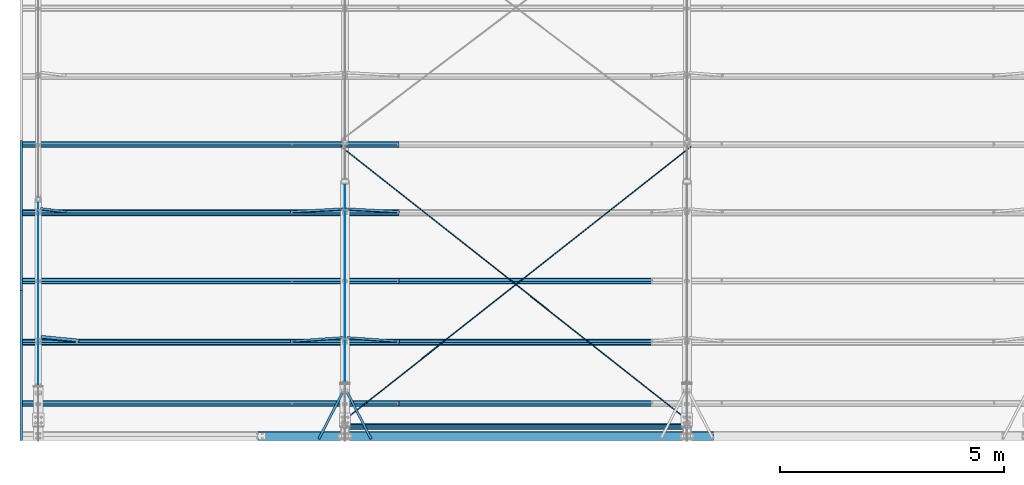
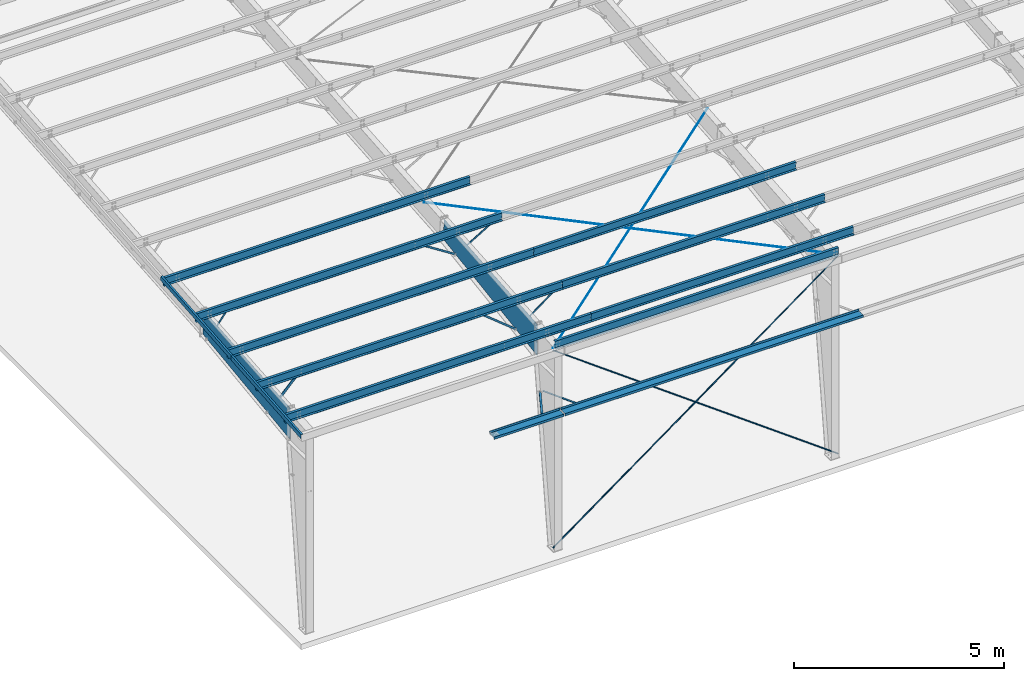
# One storey, part 6 of 185: 19 beams, 8 members, 27 elements without a shape of their own.
"""IFC2X3 building model written with IfcOpenShell, lengths in millimetres."""

from ifc_helpers import new_model, si_unit, frame, origin_with_axes, origin_2d_with_axis, place, context, subcontext, project, spatial, polyline, rectangle, circle, l_section, outline, extrude, clip, halfspace, material, type_object, element, aggregate, save


model = new_model("IFC2X3")

# Units and contexts
model_context = context("Model", 3, precision=1e-05, world=origin_with_axes())
body_context = subcontext(model_context, "Body", "Model", "MODEL_VIEW")
ifc_project = project(units=[si_unit("LENGTHUNIT", "METRE", prefix="MILLI"), si_unit("AREAUNIT", "SQUARE_METRE"), si_unit("VOLUMEUNIT", "CUBIC_METRE"), si_unit("MASSUNIT", "GRAM", prefix="KILO"), si_unit("TIMEUNIT", "SECOND"), si_unit("PLANEANGLEUNIT", "RADIAN"), si_unit("SOLIDANGLEUNIT", "STERADIAN"), si_unit("THERMODYNAMICTEMPERATUREUNIT", "DEGREE_CELSIUS"), si_unit("LUMINOUSINTENSITYUNIT", "LUMEN")], contexts=[model_context])

# Site, building, storey
site_placement = place(None, origin_with_axes())
site = spatial("IfcSite", under=ifc_project, at=site_placement, Name="Undefined", CompositionType="ELEMENT")
building_placement = place(site_placement, origin_with_axes())
building = spatial("IfcBuilding", under=site, at=building_placement, Name="Undefined", CompositionType="ELEMENT")
storey_placement = place(building_placement, origin_with_axes())
storey = spatial("IfcBuildingStorey", under=building, at=storey_placement, Name="Undefined", CompositionType="ELEMENT", Elevation=0.0)

# Assembly, beam
assembly_1_placement = place(storey_placement, origin_with_axes())
assembly_1 = element("IfcElementAssembly", 1, at=assembly_1_placement, inside=storey, Name="Steel Assembly", AssemblyPlace="NOTDEFINED", PredefinedType="RIGID_FRAME")
ifc_material = material(Name="STEEL/55")
beam_type_1 = type_object("IfcBeamType", Name="8Z15", PredefinedType="NOTDEFINED")
beam_1_placement = place(assembly_1_placement, frame((7239.0, 823.080489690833, 6062.63787351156), z_axis=(0.0, 0.0830454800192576, -0.996545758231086), x_axis=(1.0, 0.0, 0.0)))
beam_1 = element("IfcBeam", 2, at=beam_1_placement, type_object=beam_type_1, material=ifc_material, Name="Purlin", ObjectType="8Z15", context=body_context, shape_type="Clipping", body=[
    clip(clip(extrude(outline(polyline([(-75.75, 87.0100021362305), (-63.5, 101.599998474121), (1.5900000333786, 101.599998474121), (1.5900000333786, -98.4199981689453), (62.0200004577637, -98.4199981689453), (73.3099975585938, -84.9700012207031), (75.7399978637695, -87.0100021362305), (63.5, -101.599998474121), (-1.5900000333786, -101.599998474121), (-1.5900000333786, 98.4199981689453), (-62.0200004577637, 98.4199981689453), (-73.3099975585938, 84.9700012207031), (-75.75, 87.0100021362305)])), frame((8420.1, 0.0, 0.0), z_axis=(-1.0, 0.0, 0.0), x_axis=(0.0, -1.0, 0.0)), (0.0, 0.0, 1.0), 9626.6), halfspace(frame((8420.1, 2.91402102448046e-09, -101.600000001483), z_axis=(-1.0, 0.0, 0.0), x_axis=(0.0, 0.0, 1.0)), True)), halfspace(frame((-1206.5, 2.91402102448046e-09, -101.600000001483), z_axis=(-1.0, 0.0, 0.0), x_axis=(0.0, 0.0, 1.0)), False)),
])
aggregate(assembly_1, [beam_1])

assembly_2_placement = place(storey_placement, origin_with_axes())
assembly_2 = element("IfcElementAssembly", 3, at=assembly_2_placement, inside=storey, Name="Steel Assembly", AssemblyPlace="NOTDEFINED", PredefinedType="RIGID_FRAME")
beam_2_placement = place(assembly_2_placement, frame((7239.0, 2189.94265168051, 6176.54305390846), z_axis=(0.0, 0.0830454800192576, -0.996545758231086), x_axis=(1.0, 0.0, 0.0)))
beam_2 = element("IfcBeam", 4, at=beam_2_placement, type_object=beam_type_1, material=ifc_material, Name="Purlin", ObjectType="8Z15", context=body_context, shape_type="Clipping", body=[
    clip(clip(extrude(outline(polyline([(-75.75, 87.0100021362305), (-63.5, 101.599998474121), (1.5900000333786, 101.599998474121), (1.5900000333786, -98.4199981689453), (62.0200004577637, -98.4199981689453), (73.3099975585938, -84.9700012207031), (75.7399978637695, -87.0100021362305), (63.5, -101.599998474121), (-1.5900000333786, -101.599998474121), (-1.5900000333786, 98.4199981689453), (-62.0200004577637, 98.4199981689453), (-73.3099975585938, 84.9700012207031), (-75.75, 87.0100021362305)])), frame((8420.1, 0.0, 0.0), z_axis=(-1.0, 0.0, 0.0), x_axis=(0.0, -1.0, 0.0)), (0.0, 0.0, 1.0), 9626.6), halfspace(frame((8420.1, 2.91402102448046e-09, -101.600000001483), z_axis=(-1.0, 0.0, 0.0), x_axis=(0.0, 0.0, 1.0)), True)), halfspace(frame((-1206.5, 2.91402102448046e-09, -101.600000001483), z_axis=(-1.0, 0.0, 0.0), x_axis=(0.0, 0.0, 1.0)), False)),
])
aggregate(assembly_2, [beam_2])

assembly_3_placement = place(storey_placement, origin_with_axes())
assembly_3 = element("IfcElementAssembly", 5, at=assembly_3_placement, inside=storey, Name="Steel Assembly", AssemblyPlace="NOTDEFINED", PredefinedType="RIGID_FRAME")
beam_3_placement = place(assembly_3_placement, frame((7239.0, 3556.8048136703, 6290.44823430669), z_axis=(0.0, 0.0830454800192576, -0.996545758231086), x_axis=(1.0, 0.0, 0.0)))
beam_3 = element("IfcBeam", 6, at=beam_3_placement, type_object=beam_type_1, material=ifc_material, Name="Purlin", ObjectType="8Z15", context=body_context, shape_type="Clipping", body=[
    clip(clip(extrude(outline(polyline([(-75.75, 87.0100021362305), (-63.5, 101.599998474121), (1.5900000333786, 101.599998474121), (1.5900000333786, -98.4199981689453), (62.0200004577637, -98.4199981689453), (73.3099975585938, -84.9700012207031), (75.7399978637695, -87.0100021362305), (63.5, -101.599998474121), (-1.5900000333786, -101.599998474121), (-1.5900000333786, 98.4199981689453), (-62.0200004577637, 98.4199981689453), (-73.3099975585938, 84.9700012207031), (-75.75, 87.0100021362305)])), frame((8420.1, 0.0, 0.0), z_axis=(-1.0, 0.0, 0.0), x_axis=(0.0, -1.0, 0.0)), (0.0, 0.0, 1.0), 9626.6), halfspace(frame((8420.1, 2.91402102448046e-09, -101.600000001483), z_axis=(-1.0, 0.0, 0.0), x_axis=(0.0, 0.0, 1.0)), True)), halfspace(frame((-1206.5, 2.91402102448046e-09, -101.600000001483), z_axis=(-1.0, 0.0, 0.0), x_axis=(0.0, 0.0, 1.0)), False)),
])
aggregate(assembly_3, [beam_3])

assembly_4_placement = place(storey_placement, origin_with_axes())
assembly_4 = element("IfcElementAssembly", 7, at=assembly_4_placement, inside=storey, Name="Steel Assembly", AssemblyPlace="NOTDEFINED", PredefinedType="RIGID_FRAME")
beam_type_2 = type_object("IfcBeamType", Name="FB-", PredefinedType="NOTDEFINED")
beam_4_placement = place(assembly_4_placement, frame((7181.12909646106, 1116.84173202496, 4165.1649751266), z_axis=(0.0, 0.0, -1.0), x_axis=(-0.45556863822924, -0.890200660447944, 0.0)))
beam_4 = element("IfcBeam", 8, at=beam_4_placement, type_object=beam_type_2, material=ifc_material, Name="2X2 FLANGE BRACE X 60", ObjectType="FB-", context=body_context, shape_type="SweptSolid", body=[
    extrude(outline(polyline([(1.5900000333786, 1.59000003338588), (50.7999992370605, 1.59000003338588), (50.7999992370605, 7.27595761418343e-12), (0.0, 0.0), (0.0, 50.7999992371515), (1.5900000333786, 50.7999992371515), (1.5900000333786, 1.59000003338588)])), frame((1202.47881570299, 0.0, 0.0), z_axis=(-1.0, 0.0, 0.0), x_axis=(0.0, -1.0, 0.0)), (0.0, 0.0, 1.0), 1202.5),
])
aggregate(assembly_4, [beam_4])

assembly_5_placement = place(storey_placement, origin_with_axes())
assembly_5 = element("IfcElementAssembly", 9, at=assembly_5_placement, inside=storey, Name="Steel Assembly", AssemblyPlace="NOTDEFINED", PredefinedType="RIGID_FRAME")
beam_5_placement = place(assembly_5_placement, frame((7296.87090353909, 1116.84173202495, 4165.16497512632), z_axis=(-0.890200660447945, -0.455568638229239, 0.0), x_axis=(0.455568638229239, -0.890200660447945, 0.0)))
beam_5 = element("IfcBeam", 10, at=beam_5_placement, type_object=beam_type_2, material=ifc_material, Name="2X2 FLANGE BRACE X 60", ObjectType="FB-", context=body_context, shape_type="SweptSolid", body=[
    extrude(outline(polyline([(1.5900000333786, 1.59000003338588), (50.7999992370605, 1.59000003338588), (50.7999992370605, 7.27595761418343e-12), (0.0, 0.0), (0.0, 50.7999992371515), (1.5900000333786, 50.7999992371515), (1.5900000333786, 1.59000003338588)])), frame((1202.47881570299, 0.0, 0.0), z_axis=(-1.0, 0.0, 0.0), x_axis=(0.0, -1.0, 0.0)), (0.0, 0.0, 1.0), 1202.5),
])
aggregate(assembly_5, [beam_5])

assembly_6_placement = place(storey_placement, origin_with_axes())
assembly_6 = element("IfcElementAssembly", 11, at=assembly_6_placement, inside=storey, Name="Steel Assembly", AssemblyPlace="NOTDEFINED", PredefinedType="RIGID_FRAME")
beam_type_3 = type_object("IfcBeamType", Name="8Z16", PredefinedType="NOTDEFINED")
beam_6_placement = place(assembly_6_placement, frame((14859.0, 101.6, 4165.6), z_axis=(0.0, 1.0, 0.0), x_axis=(-1.0, 0.0, 0.0)))
beam_6 = element("IfcBeam", 12, at=beam_6_placement, type_object=beam_type_3, material=ifc_material, Name="Girt", ObjectType="8Z16", context=body_context, shape_type="Clipping", body=[
    clip(extrude(outline(polyline([(73.3099975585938, -84.9700012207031), (75.7399978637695, -87.0100021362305), (63.5, -101.599998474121), (-1.5900000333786, -101.599998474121), (-1.5900000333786, 98.4199981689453), (-62.0200004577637, 98.4199981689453), (-73.3099975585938, 84.9700012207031), (-75.75, 87.0100021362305), (-63.5, 101.599998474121), (1.5900000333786, 101.599998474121), (1.5900000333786, -98.4199981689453), (62.0200004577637, -98.4199981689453), (73.3099975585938, -84.9700012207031)])), frame((7607.3, 0.0, 0.0), z_axis=(-1.0, 0.0, 0.0), x_axis=(0.0, -1.0, 0.0)), (0.0, 0.0, 1.0), 8204.2), halfspace(frame((-596.900000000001, 0.0, -101.6), z_axis=(-1.0, 0.0, 0.0), x_axis=(0.0, -1.0, 0.0)), False)),
])
aggregate(assembly_6, [beam_6])

assembly_7_placement = place(storey_placement, origin_with_axes())
assembly_7 = element("IfcElementAssembly", 13, at=assembly_7_placement, inside=storey, Name="Steel Assembly", AssemblyPlace="NOTDEFINED", PredefinedType="RIGID_FRAME")
beam_7_placement = place(assembly_7_placement, frame((7226.3, 101.6, 4165.6), z_axis=(0.0, 1.0, 0.0), x_axis=(-1.0, 0.0, 0.0)))
beam_7 = element("IfcBeam", 14, at=beam_7_placement, type_object=beam_type_3, material=ifc_material, Name="Girt", ObjectType="8Z16", context=body_context, shape_type="Clipping", body=[
    clip(extrude(outline(polyline([(73.3099975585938, -84.9700012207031), (75.7399978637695, -87.0100021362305), (63.5, -101.599998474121), (-1.5900000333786, -101.599998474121), (-1.5900000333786, 98.4199981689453), (-62.0200004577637, 98.4199981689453), (-73.3099975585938, 84.9700012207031), (-75.75, 87.0100021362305), (-63.5, 101.599998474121), (1.5900000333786, 101.599998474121), (1.5900000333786, -98.4199981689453), (62.0200004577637, -98.4199981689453), (73.3099975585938, -84.9700012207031)])), frame((1930.4, 0.0, 0.0), z_axis=(-1.0, 0.0, 0.0), x_axis=(0.0, -1.0, 0.0)), (0.0, 0.0, 1.0), 1930.4), halfspace(frame((1930.4, 1.59000003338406, 0.0), z_axis=(-1.0, 0.0, 0.0), x_axis=(0.0, 1.0, 0.0)), True)),
])
aggregate(assembly_7, [beam_7])

# Assembly, member
assembly_8_placement = place(storey_placement, origin_with_axes())
assembly_8 = element("IfcElementAssembly", 15, at=assembly_8_placement, inside=storey, Name="Steel Assembly", AssemblyPlace="NOTDEFINED", PredefinedType="RIGID_FRAME")
member_type_1 = type_object("IfcMemberType", Name="FB-", PredefinedType="NOTDEFINED")
member_1_placement = place(assembly_8_placement, frame((460.586069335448, 5142.47605000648, 5613.78353608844), z_axis=(0.0, 0.996545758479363, 0.0830454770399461), x_axis=(0.54734637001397, -0.0695012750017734, 0.834015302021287)))
member_1 = element("IfcMember", 16, at=member_1_placement, type_object=member_type_1, material=ifc_material, Name="2X2 FLANGE BRACE X 48", ObjectType="FB-", context=body_context, shape_type="SweptSolid", body=[
    extrude(outline(polyline([(1.5900000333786, 1.59000003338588), (50.7999992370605, 1.59000003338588), (50.7999992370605, 7.27595761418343e-12), (0.0, 0.0), (0.0, 50.7999992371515), (1.5900000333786, 50.7999992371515), (1.5900000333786, 1.59000003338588)])), frame((1032.57092025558, -6.26704952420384e-13, -9.09494701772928e-13), z_axis=(-1.0, 0.0, 0.0), x_axis=(0.0, -1.0, 0.0)), (0.0, 0.0, 1.0), 1032.6),
])
aggregate(assembly_8, [member_1])

assembly_9_placement = place(storey_placement, origin_with_axes())
assembly_9 = element("IfcElementAssembly", 17, at=assembly_9_placement, inside=storey, Name="Steel Assembly", AssemblyPlace="NOTDEFINED", PredefinedType="RIGID_FRAME")
member_2_placement = place(assembly_9_placement, frame((7199.26936873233, 5136.828460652, 5681.55460828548), z_axis=(0.553384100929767, -0.0691707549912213, 0.830049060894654), x_axis=(-0.832926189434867, -0.0459560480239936, 0.551472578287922)))
member_2 = element("IfcMember", 18, at=member_2_placement, type_object=member_type_1, material=ifc_material, Name="2X2 FLANGE BRACE X 48", ObjectType="FB-", context=body_context, shape_type="SweptSolid", body=[
    extrude(outline(polyline([(1.5900000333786, 1.59000003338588), (50.7999992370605, 1.59000003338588), (50.7999992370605, 7.27595761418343e-12), (0.0, 0.0), (0.0, 50.7999992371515), (1.5900000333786, 50.7999992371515), (1.5900000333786, 1.59000003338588)])), frame((1412.58813181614, 9.09494701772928e-13, -7.8414393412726e-14), z_axis=(-1.0, 0.0, 0.0), x_axis=(0.0, -1.0, 0.0)), (0.0, 0.0, 1.0), 1412.6),
])
aggregate(assembly_9, [member_2])

assembly_10_placement = place(storey_placement, origin_with_axes())
assembly_10 = element("IfcElementAssembly", 19, at=assembly_10_placement, inside=storey, Name="Steel Assembly", AssemblyPlace="NOTDEFINED", PredefinedType="RIGID_FRAME")
member_3_placement = place(assembly_10_placement, frame((7278.7306312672, 5136.82846065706, 5681.55460828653), z_axis=(0.0, 0.996545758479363, 0.0830454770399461), x_axis=(0.832926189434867, -0.0459560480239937, 0.551472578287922)))
member_3 = element("IfcMember", 20, at=member_3_placement, type_object=member_type_1, material=ifc_material, Name="2X2 FLANGE BRACE X 48", ObjectType="FB-", context=body_context, shape_type="SweptSolid", body=[
    extrude(outline(polyline([(1.5900000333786, 1.59000003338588), (50.7999992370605, 1.59000003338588), (50.7999992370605, 7.27595761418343e-12), (0.0, 0.0), (0.0, 50.7999992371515), (1.5900000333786, 50.7999992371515), (1.5900000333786, 1.59000003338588)])), frame((1412.58813181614, 9.09494701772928e-13, -7.8414393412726e-14), z_axis=(-1.0, 0.0, 0.0), x_axis=(0.0, -1.0, 0.0)), (0.0, 0.0, 1.0), 1412.6),
])
aggregate(assembly_10, [member_3])

assembly_11_placement = place(storey_placement, origin_with_axes())
assembly_11 = element("IfcElementAssembly", 21, at=assembly_11_placement, inside=storey, Name="Steel Assembly", AssemblyPlace="NOTDEFINED", PredefinedType="RIGID_FRAME")
member_4_placement = place(assembly_11_placement, frame((7195.37463386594, 2267.39940442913, 5247.06202077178), z_axis=(0.641182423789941, -0.0637281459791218, 0.764737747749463), x_axis=(-0.767388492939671, -0.0532473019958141, 0.638967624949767)))
member_4 = element("IfcMember", 22, at=member_4_placement, type_object=member_type_1, material=ifc_material, Name="2X2 FLANGE BRACE X 60", ObjectType="FB-", context=body_context, shape_type="SweptSolid", body=[
    extrude(outline(polyline([(1.5900000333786, 1.59000003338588), (50.7999992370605, 1.59000003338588), (50.7999992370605, 7.27595761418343e-12), (0.0, 0.0), (0.0, 50.7999992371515), (1.5900000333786, 50.7999992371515), (1.5900000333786, 1.59000003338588)])), frame((1528.8896630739, 4.44138547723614e-13, 0.0), z_axis=(-1.0, 0.0, 0.0), x_axis=(0.0, -1.0, 0.0)), (0.0, 0.0, 1.0), 1528.9),
])
aggregate(assembly_11, [member_4])

assembly_12_placement = place(storey_placement, origin_with_axes())
assembly_12 = element("IfcElementAssembly", 23, at=assembly_12_placement, inside=storey, Name="Steel Assembly", AssemblyPlace="NOTDEFINED", PredefinedType="RIGID_FRAME")
member_5_placement = place(assembly_12_placement, frame((7282.62536613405, 2267.39940442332, 5247.06202077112), z_axis=(0.0, 0.996545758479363, 0.0830454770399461), x_axis=(0.767388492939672, -0.053247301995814, 0.638967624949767)))
member_5 = element("IfcMember", 24, at=member_5_placement, type_object=member_type_1, material=ifc_material, Name="2X2 FLANGE BRACE X 60", ObjectType="FB-", context=body_context, shape_type="SweptSolid", body=[
    extrude(outline(polyline([(1.5900000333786, 1.59000003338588), (50.7999992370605, 1.59000003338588), (50.7999992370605, 7.27595761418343e-12), (0.0, 0.0), (0.0, 50.7999992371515), (1.5900000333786, 50.7999992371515), (1.5900000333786, 1.59000003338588)])), frame((1528.8896630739, 4.44138547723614e-13, 0.0), z_axis=(-1.0, 0.0, 0.0), x_axis=(0.0, -1.0, 0.0)), (0.0, 0.0, 1.0), 1528.9),
])
aggregate(assembly_12, [member_5])

# Assembly, beam
assembly_13_placement = place(storey_placement, origin_with_axes())
assembly_13 = element("IfcElementAssembly", 25, at=assembly_13_placement, inside=storey, Name="Steel Assembly", AssemblyPlace="NOTDEFINED", PredefinedType="RIGID_FRAME")
beam_type_4 = type_object("IfcBeamType", Name="RA-1", PredefinedType="NOTDEFINED")
beam_8_placement = place(assembly_13_placement, frame((0.0, 6682.45642948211, 6652.63942910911), z_axis=(0.0, 0.0830701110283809, -0.99654370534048), x_axis=(0.0, -0.99654370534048, -0.0830701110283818)))
beam_8 = element("IfcBeam", 26, at=beam_8_placement, type_object=beam_type_4, material=ifc_material, Name="STANDARD RAKE ANGLE", ObjectType="RA-1", context=body_context, shape_type="SweptSolid", body=[
    extrude(outline(polyline([(0.0, 0.0), (50.7999992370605, 7.27595761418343e-12), (50.7999992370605, -1.51999998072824), (-1.51999998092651, -1.51999998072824), (-1.51999998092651, 127.000000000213), (0.0, 127.000000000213), (0.0, 0.0)])), frame((3352.80000002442, 0.0, -1.86551885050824e-12), z_axis=(-1.0, 0.0, 0.0), x_axis=(0.0, -1.0, 0.0)), (0.0, 0.0, 1.0), 3352.8),
])
aggregate(assembly_13, [beam_8])

assembly_14_placement = place(storey_placement, origin_with_axes())
assembly_14 = element("IfcElementAssembly", 27, at=assembly_14_placement, inside=storey, Name="Steel Assembly", AssemblyPlace="NOTDEFINED", PredefinedType="RIGID_FRAME")
beam_9_placement = place(assembly_14_placement, frame((0.0, 3341.24469407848, 6374.12196250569), z_axis=(0.0, 0.0830701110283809, -0.99654370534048), x_axis=(0.0, -0.99654370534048, -0.0830701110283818)))
beam_9 = element("IfcBeam", 28, at=beam_9_placement, type_object=beam_type_4, material=ifc_material, Name="STANDARD RAKE ANGLE", ObjectType="RA-1", context=body_context, shape_type="SweptSolid", body=[
    extrude(outline(polyline([(0.0, 0.0), (50.7999992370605, 7.27595761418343e-12), (50.7999992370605, -1.51999998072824), (-1.51999998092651, -1.51999998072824), (-1.51999998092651, 127.000000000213), (0.0, 127.000000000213), (0.0, 0.0)])), frame((3352.80000002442, 0.0, -1.86551885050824e-12), z_axis=(-1.0, 0.0, 0.0), x_axis=(0.0, -1.0, 0.0)), (0.0, 0.0, 1.0), 3352.8),
])
aggregate(assembly_14, [beam_9])

# Assembly, member
assembly_15_placement = place(storey_placement, origin_with_axes())
assembly_15 = element("IfcElementAssembly", 29, at=assembly_15_placement, inside=storey, Name="Steel Assembly", AssemblyPlace="NOTDEFINED", PredefinedType="RIGID_FRAME")
member_type_2 = type_object("IfcMemberType", Name="L3X3X1/4", PredefinedType="NOTDEFINED")
member_6_placement = place(assembly_15_placement, frame((441.722853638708, 2305.48146257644, 5248.86207640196), z_axis=(0.0, 0.996545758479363, 0.0830454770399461), x_axis=(0.644283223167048, -0.0635121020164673, 0.762145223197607)))
member_6 = element("IfcMember", 30, at=member_6_placement, type_object=member_type_2, material=ifc_material, Name="MISC STRUCTURAL ANGLE", ObjectType="L3X3X1/4", context=body_context, shape_type="SweptSolid", body=[
    extrude(l_section(Depth=76.2, Width=76.2, Thickness=6.35, FilletRadius=9.525, at=origin_2d_with_axis()), frame((1307.82287484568, 7.2598753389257e-14, 4.3659766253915e-13), z_axis=(-1.0, 0.0, 0.0), x_axis=(0.0, -1.0, 0.0)), (0.0, 0.0, 1.0), 1307.8),
])
aggregate(assembly_15, [member_6])

assembly_16_placement = place(storey_placement, origin_with_axes())
assembly_16 = element("IfcElementAssembly", 31, at=assembly_16_placement, inside=storey, Name="Steel Assembly", AssemblyPlace="NOTDEFINED", PredefinedType="RIGID_FRAME")
member_type_3 = type_object("IfcMemberType", Name="RB1\"", PredefinedType="NOTDEFINED")
member_7_placement = place(assembly_16_placement, frame((7136.39781918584, 363.474, 93.0104696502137), z_axis=(-0.591467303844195, 0.0, 0.806328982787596), x_axis=(0.806329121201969, 0.0, 0.591467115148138)))
member_7 = element("IfcMember", 32, at=member_7_placement, type_object=member_type_3, material=ifc_material, Name="ROD BRACE - 1", ObjectType="RB1\"", context=body_context, shape_type="SweptSolid", body=[
    extrude(circle(Radius=12.7, at=origin_2d_with_axis()), frame((9702.64951432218, 0.0, 0.0), z_axis=(-1.0, 0.0, 0.0), x_axis=(0.0, -1.0, 0.0)), (0.0, 0.0, 1.0), 9702.6),
])
aggregate(assembly_16, [member_7])

assembly_17_placement = place(storey_placement, origin_with_axes())
assembly_17 = element("IfcElementAssembly", 33, at=assembly_17_placement, inside=storey, Name="Steel Assembly", AssemblyPlace="NOTDEFINED", PredefinedType="RIGID_FRAME")
member_8_placement = place(assembly_17_placement, frame((14961.2053984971, 363.473999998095, 93.3041479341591), z_axis=(0.591467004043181, 0.000611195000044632, 0.80632897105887), x_axis=(-0.806329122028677, 0.0, 0.591467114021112)))
member_8 = element("IfcMember", 34, at=member_8_placement, type_object=member_type_3, material=ifc_material, Name="ROD BRACE - 1", ObjectType="RB1\"", context=body_context, shape_type="SweptSolid", body=[
    extrude(circle(Radius=12.7, at=origin_2d_with_axis()), frame((9702.64789418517, 0.0, 2.5607684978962e-12), z_axis=(-1.0, 0.0, 0.0), x_axis=(0.0, -1.0, 0.0)), (0.0, 0.0, 1.0), 9702.6),
])
aggregate(assembly_17, [member_8])

# Assembly, beam
assembly_18_placement = place(storey_placement, origin_with_axes())
assembly_18 = element("IfcElementAssembly", 35, at=assembly_18_placement, inside=storey, Name="Steel Assembly", AssemblyPlace="NOTDEFINED", PredefinedType="RIGID_FRAME")
beam_type_5 = type_object("IfcBeamType", Name="RB3/4\"", PredefinedType="NOTDEFINED")
beam_10_placement = place(assembly_18_placement, frame((7159.34402465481, 405.911442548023, 5866.96777796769), z_axis=(-0.0791009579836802, 0.0171934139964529, 0.996718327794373), x_axis=(0.784015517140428, 0.618597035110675, 0.0515497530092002)))
beam_10 = element("IfcBeam", 36, at=beam_10_placement, type_object=beam_type_5, material=ifc_material, Name="ROD BRACE - 3/4", ObjectType="RB3/4\"", context=body_context, shape_type="SweptSolid", body=[
    extrude(circle(Radius=9.525, at=origin_2d_with_axis()), frame((9931.92038653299, -7.45160108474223e-13, 3.85830809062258e-13), z_axis=(-1.0, 0.0, 0.0), x_axis=(0.0, -1.0, 0.0)), (0.0, 0.0, 1.0), 9931.9),
])
aggregate(assembly_18, [beam_10])

assembly_19_placement = place(storey_placement, origin_with_axes())
assembly_19 = element("IfcElementAssembly", 37, at=assembly_19_placement, inside=storey, Name="Steel Assembly", AssemblyPlace="NOTDEFINED", PredefinedType="RIGID_FRAME")
beam_11_placement = place(assembly_19_placement, frame((14938.656040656, 405.924315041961, 5866.9688537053), z_axis=(0.0790414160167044, 0.0171176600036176, 0.996724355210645), x_axis=(-0.784016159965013, 0.618596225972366, 0.0515496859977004)))
beam_11 = element("IfcBeam", 38, at=beam_11_placement, type_object=beam_type_5, material=ifc_material, Name="ROD BRACE - 3/4", ObjectType="RB3/4\"", context=body_context, shape_type="SweptSolid", body=[
    extrude(circle(Radius=9.525, at=origin_2d_with_axis()), frame((9931.91241939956, 3.62074968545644e-12, -2.02573886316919e-12), z_axis=(-1.0, 0.0, 0.0), x_axis=(0.0, -1.0, 0.0)), (0.0, 0.0, 1.0), 9931.9),
])
aggregate(assembly_19, [beam_11])

assembly_20_placement = place(storey_placement, origin_with_axes())
assembly_20 = element("IfcElementAssembly", 39, at=assembly_20_placement, inside=storey, Name="Steel Assembly", AssemblyPlace="NOTDEFINED", PredefinedType="RIGID_FRAME")
beam_type_6 = type_object("IfcBeamType", Name="8Z12", PredefinedType="NOTDEFINED")
beam_12_placement = place(assembly_20_placement, frame((7239.0, 312.089195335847, 6020.05526556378), z_axis=(0.0, 0.0830454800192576, -0.996545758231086), x_axis=(1.0, 0.0, 0.0)))
beam_12 = element("IfcBeam", 40, at=beam_12_placement, type_object=beam_type_6, material=ifc_material, Name="Purlin", ObjectType="8Z12", context=body_context, shape_type="Clipping", body=[
    clip(clip(extrude(outline(polyline([(-62.0200004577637, 98.4199981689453), (-73.3099975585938, 84.9700012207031), (-75.75, 87.0100021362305), (-63.5, 101.599998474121), (1.5900000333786, 101.599998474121), (1.5900000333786, -98.4199981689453), (62.0200004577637, -98.4199981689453), (73.3099975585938, -84.9700012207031), (75.7399978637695, -87.0100021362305), (63.5, -101.599998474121), (-1.5900000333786, -101.599998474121), (-1.5900000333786, 98.4199981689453), (-62.0200004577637, 98.4199981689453)])), frame((7708.9, 0.0, 0.0), z_axis=(-1.0, 0.0, 0.0), x_axis=(0.0, -1.0, 0.0)), (0.0, 0.0, 1.0), 7797.8), halfspace(frame((7708.9, 8.84028850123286e-10, -101.600000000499), z_axis=(-1.0, 0.0, 0.0), x_axis=(0.0, 0.0, -1.0)), True)), halfspace(frame((-88.8999999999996, 8.84028850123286e-10, -101.600000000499), z_axis=(-1.0, 0.0, 0.0), x_axis=(0.0, 0.0, 1.0)), False)),
])
aggregate(assembly_20, [beam_12])

assembly_21_placement = place(storey_placement, origin_with_axes())
assembly_21 = element("IfcElementAssembly", 41, at=assembly_21_placement, inside=storey, Name="Steel Assembly", AssemblyPlace="NOTDEFINED", PredefinedType="RIGID_FRAME")
beam_type_7 = type_object("IfcBeamType", Name="8Z13", PredefinedType="NOTDEFINED")
beam_13_placement = place(assembly_21_placement, frame((0.0, 823.080489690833, 6062.63787351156), z_axis=(0.0, 0.0830454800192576, -0.996545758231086), x_axis=(1.0, 0.0, 0.0)))
beam_13 = element("IfcBeam", 42, at=beam_13_placement, type_object=beam_type_7, material=ifc_material, Name="Purlin", ObjectType="8Z13", context=body_context, shape_type="Clipping", body=[
    clip(clip(extrude(outline(polyline([(-62.0200004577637, 98.4199981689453), (-73.3099975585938, 84.9700012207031), (-75.75, 87.0100021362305), (-63.5, 101.599998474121), (1.5900000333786, 101.599998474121), (1.5900000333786, -98.4199981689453), (62.0200004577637, -98.4199981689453), (73.3099975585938, -84.9700012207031), (75.7399978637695, -87.0100021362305), (63.5, -101.599998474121), (-1.5900000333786, -101.599998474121), (-1.5900000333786, 98.4199981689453), (-62.0200004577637, 98.4199981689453)])), frame((8445.5, 0.0, 0.0), z_axis=(-1.0, 0.0, 0.0), x_axis=(0.0, -1.0, 0.0)), (0.0, 0.0, 1.0), 8432.8), halfspace(frame((8445.5, 2.91402102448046e-09, -101.600000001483), z_axis=(-1.0, 0.0, 0.0), x_axis=(0.0, 0.0, 1.0)), True)), halfspace(frame((12.7000000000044, 2.91402102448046e-09, -101.600000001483), z_axis=(-1.0, 0.0, 0.0), x_axis=(0.0, 0.0, 1.0)), False)),
])
aggregate(assembly_21, [beam_13])

assembly_22_placement = place(storey_placement, origin_with_axes())
assembly_22 = element("IfcElementAssembly", 43, at=assembly_22_placement, inside=storey, Name="Steel Assembly", AssemblyPlace="NOTDEFINED", PredefinedType="RIGID_FRAME")
beam_14_placement = place(assembly_22_placement, frame((1.276483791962e-14, 2189.94265168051, 6176.54305390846), z_axis=(0.0, 0.0830454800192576, -0.996545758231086), x_axis=(1.0, 0.0, 0.0)))
beam_14 = element("IfcBeam", 44, at=beam_14_placement, type_object=beam_type_7, material=ifc_material, Name="Purlin", ObjectType="8Z13", context=body_context, shape_type="Clipping", body=[
    clip(clip(extrude(outline(polyline([(-62.0200004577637, 98.4199981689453), (-73.3099975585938, 84.9700012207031), (-75.75, 87.0100021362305), (-63.5, 101.599998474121), (1.5900000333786, 101.599998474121), (1.5900000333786, -98.4199981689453), (62.0200004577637, -98.4199981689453), (73.3099975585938, -84.9700012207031), (75.7399978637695, -87.0100021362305), (63.5, -101.599998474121), (-1.5900000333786, -101.599998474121), (-1.5900000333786, 98.4199981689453), (-62.0200004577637, 98.4199981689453)])), frame((8445.5, 0.0, 0.0), z_axis=(-1.0, 0.0, 0.0), x_axis=(0.0, -1.0, 0.0)), (0.0, 0.0, 1.0), 8432.8), halfspace(frame((8445.5, 2.91402102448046e-09, -101.600000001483), z_axis=(-1.0, 0.0, 0.0), x_axis=(0.0, 0.0, 1.0)), True)), halfspace(frame((12.7000000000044, 2.91402102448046e-09, -101.600000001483), z_axis=(-1.0, 0.0, 0.0), x_axis=(0.0, 0.0, 1.0)), False)),
])
aggregate(assembly_22, [beam_14])

assembly_23_placement = place(storey_placement, origin_with_axes())
assembly_23 = element("IfcElementAssembly", 45, at=assembly_23_placement, inside=storey, Name="Steel Assembly", AssemblyPlace="NOTDEFINED", PredefinedType="RIGID_FRAME")
beam_15_placement = place(assembly_23_placement, frame((-3.09054857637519e-15, 3556.80481367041, 6290.44823430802), z_axis=(0.0, 0.0830454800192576, -0.996545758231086), x_axis=(1.0, 0.0, 0.0)))
beam_15 = element("IfcBeam", 46, at=beam_15_placement, type_object=beam_type_7, material=ifc_material, Name="Purlin", ObjectType="8Z13", context=body_context, shape_type="Clipping", body=[
    clip(clip(extrude(outline(polyline([(-62.0200004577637, 98.4199981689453), (-73.3099975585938, 84.9700012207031), (-75.75, 87.0100021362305), (-63.5, 101.599998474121), (1.5900000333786, 101.599998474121), (1.5900000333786, -98.4199981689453), (62.0200004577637, -98.4199981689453), (73.3099975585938, -84.9700012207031), (75.7399978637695, -87.0100021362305), (63.5, -101.599998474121), (-1.5900000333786, -101.599998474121), (-1.5900000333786, 98.4199981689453), (-62.0200004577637, 98.4199981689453)])), frame((8445.5, 0.0, 0.0), z_axis=(-1.0, 0.0, 0.0), x_axis=(0.0, -1.0, 0.0)), (0.0, 0.0, 1.0), 8432.8), halfspace(frame((8445.5, 2.91402102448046e-09, -101.600000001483), z_axis=(-1.0, 0.0, 0.0), x_axis=(0.0, 0.0, 1.0)), True)), halfspace(frame((12.7000000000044, 2.91402102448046e-09, -101.600000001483), z_axis=(-1.0, 0.0, 0.0), x_axis=(0.0, 0.0, 1.0)), False)),
])
aggregate(assembly_23, [beam_15])

assembly_24_placement = place(storey_placement, origin_with_axes())
assembly_24 = element("IfcElementAssembly", 47, at=assembly_24_placement, inside=storey, Name="Steel Assembly", AssemblyPlace="NOTDEFINED", PredefinedType="RIGID_FRAME")
beam_16_placement = place(assembly_24_placement, frame((5.37762549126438e-22, 5075.54054921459, 6417.00954586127), z_axis=(0.0, 0.0830454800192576, -0.996545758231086), x_axis=(1.0, 0.0, 0.0)))
beam_16 = element("IfcBeam", 48, at=beam_16_placement, type_object=beam_type_7, material=ifc_material, Name="Purlin", ObjectType="8Z13", context=body_context, shape_type="Clipping", body=[
    clip(clip(extrude(outline(polyline([(-62.0200004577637, 98.4199981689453), (-73.3099975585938, 84.9700012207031), (-75.75, 87.0100021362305), (-63.5, 101.599998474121), (1.5900000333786, 101.599998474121), (1.5900000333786, -98.4199981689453), (62.0200004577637, -98.4199981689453), (73.3099975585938, -84.9700012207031), (75.7399978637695, -87.0100021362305), (63.5, -101.599998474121), (-1.5900000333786, -101.599998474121), (-1.5900000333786, 98.4199981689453), (-62.0200004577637, 98.4199981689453)])), frame((8445.5, 0.0, 0.0), z_axis=(-1.0, 0.0, 0.0), x_axis=(0.0, -1.0, 0.0)), (0.0, 0.0, 1.0), 8432.8), halfspace(frame((8445.5, 2.91402102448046e-09, -101.600000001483), z_axis=(-1.0, 0.0, 0.0), x_axis=(0.0, 0.0, 1.0)), True)), halfspace(frame((12.7000000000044, 2.91402102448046e-09, -101.600000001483), z_axis=(-1.0, 0.0, 0.0), x_axis=(0.0, 0.0, 1.0)), False)),
])
aggregate(assembly_24, [beam_16])

assembly_25_placement = place(storey_placement, origin_with_axes())
assembly_25 = element("IfcElementAssembly", 49, at=assembly_25_placement, inside=storey, Name="Steel Assembly", AssemblyPlace="NOTDEFINED", PredefinedType="RIGID_FRAME")
beam_17_placement = place(assembly_25_placement, frame((-5.73611888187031e-15, 6594.27628475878, 6543.57085741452), z_axis=(0.0, 0.0830454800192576, -0.996545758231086), x_axis=(1.0, 0.0, 0.0)))
beam_17 = element("IfcBeam", 50, at=beam_17_placement, type_object=beam_type_7, material=ifc_material, Name="Purlin", ObjectType="8Z13", context=body_context, shape_type="Clipping", body=[
    clip(clip(extrude(outline(polyline([(-62.0200004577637, 98.4199981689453), (-73.3099975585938, 84.9700012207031), (-75.75, 87.0100021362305), (-63.5, 101.599998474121), (1.5900000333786, 101.599998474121), (1.5900000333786, -98.4199981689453), (62.0200004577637, -98.4199981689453), (73.3099975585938, -84.9700012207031), (75.7399978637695, -87.0100021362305), (63.5, -101.599998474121), (-1.5900000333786, -101.599998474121), (-1.5900000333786, 98.4199981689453), (-62.0200004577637, 98.4199981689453)])), frame((8445.5, 0.0, 0.0), z_axis=(-1.0, 0.0, 0.0), x_axis=(0.0, -1.0, 0.0)), (0.0, 0.0, 1.0), 8432.8), halfspace(frame((8445.5, 2.91402102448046e-09, -101.600000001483), z_axis=(-1.0, 0.0, 0.0), x_axis=(0.0, 0.0, 1.0)), True)), halfspace(frame((12.7000000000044, 2.91402102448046e-09, -101.600000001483), z_axis=(-1.0, 0.0, 0.0), x_axis=(0.0, 0.0, 1.0)), False)),
])
aggregate(assembly_25, [beam_17])

assembly_26_placement = place(storey_placement, origin_with_axes())
assembly_26 = element("IfcElementAssembly", 51, at=assembly_26_placement, inside=storey, Name="Steel Assembly", AssemblyPlace="NOTDEFINED", PredefinedType="RIGID_FRAME")
beam_type_8 = type_object("IfcBeamType", Name="PL3/16\"X36\"", PredefinedType="NOTDEFINED")
beam_18_placement = place(assembly_26_placement, frame((406.400000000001, 1187.60724048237, 5526.28205770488), z_axis=(0.0, -0.0830454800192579, 0.996545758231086), x_axis=(0.0, 0.996545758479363, 0.0830454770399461)))
beam_18 = element("IfcBeam", 52, at=beam_18_placement, type_object=beam_type_8, material=ifc_material, Name="Web", ObjectType="PL3/16\"X36\"", context=body_context, shape_type="Clipping", body=[
    clip(clip(clip(extrude(rectangle(XDim=4.7625, YDim=913.782654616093, at=origin_2d_with_axis()), frame((4189.19618940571, -7.27595761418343e-12, 9.67631477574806e-13), z_axis=(-1.0, 0.0, 0.0), x_axis=(0.0, -1.0, 0.0)), (0.0, 0.0, 1.0), 4249.1), halfspace(frame((6.35736796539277e-10, 2.38124999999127, -456.891327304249), z_axis=(0.0481911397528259, 0.0, -0.998838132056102), x_axis=(0.0, -1.0, 0.0)), False)), halfspace(frame((4189.19618940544, -7.27595761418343e-12, 456.891326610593), z_axis=(-1.0, 0.0, 0.0), x_axis=(0.0, -1.0, 0.0)), True)), halfspace(frame((76.0606648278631, -7.27595761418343e-12, 455.836649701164), z_axis=(-0.996545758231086, 0.0, 0.0830454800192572), x_axis=(0.0, -1.0, 0.0)), False)),
])
aggregate(assembly_26, [beam_18])

assembly_27_placement = place(storey_placement, origin_with_axes())
assembly_27 = element("IfcElementAssembly", 53, at=assembly_27_placement, inside=storey, Name="Steel Assembly", AssemblyPlace="NOTDEFINED", PredefinedType="RIGID_FRAME")
beam_19_placement = place(assembly_27_placement, frame((7239.0, 1246.21677618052, 5529.25070197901), z_axis=(0.0, -0.0830454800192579, 0.996545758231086), x_axis=(0.0, 0.996545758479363, 0.0830454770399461)))
beam_19 = element("IfcBeam", 54, at=beam_19_placement, type_object=beam_type_8, material=ifc_material, Name="Web", ObjectType="PL3/16\"X36\"", context=body_context, shape_type="Clipping", body=[
    clip(clip(clip(extrude(rectangle(XDim=4.762, YDim=914.4, at=origin_2d_with_axis()), frame((4533.51247768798, 0.0, 9.72409825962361e-13), z_axis=(-1.0, 0.0, 0.0), x_axis=(0.0, -1.0, 0.0)), (0.0, 0.0, 1.0), 4585.0), halfspace(frame((-0.0884751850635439, 2.38124999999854, -457.200000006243), z_axis=(0.0668939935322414, 0.0, -0.997760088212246), x_axis=(0.0, -1.0, 0.0)), False)), halfspace(frame((4533.51247768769, 0.0, 457.199999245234), z_axis=(-1.0, 0.0, 0.0), x_axis=(0.0, -1.0, 0.0)), True)), halfspace(frame((76.0025415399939, 0.0, 455.892199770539), z_axis=(-0.996545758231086, 0.0, 0.0830454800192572), x_axis=(0.0, -1.0, 0.0)), False)),
])
aggregate(assembly_27, [beam_19])

save(model, "model.ifc")
